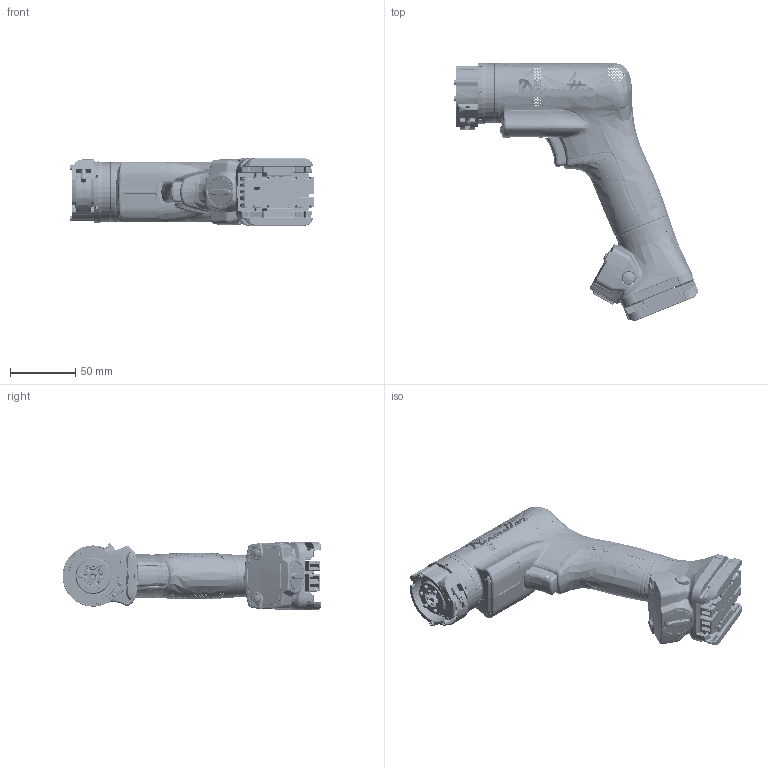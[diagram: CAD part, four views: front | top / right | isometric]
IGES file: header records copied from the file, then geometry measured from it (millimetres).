
Start section:  PTC IGES file: 6151762510_dim.igs
Global section: file name: 6151762510_dim.igs; native system: Creo Parametric by PTC Inc.; preprocessor: 2022414; author: SYSTEM; organization: Unknown; date: 20241108.143708; units: millimetre
Bounding box: 188.06 x 198.77 x 52.1 mm (x, y, z)
Surface area: 72503.5 mm2 (no closed solid volume)
Topology: 0 solids, 0 shells, 2444 faces, 13665 edges, 13661 vertices
Faces by surface type: bspline 1480, revolution 902, extrusion 62
